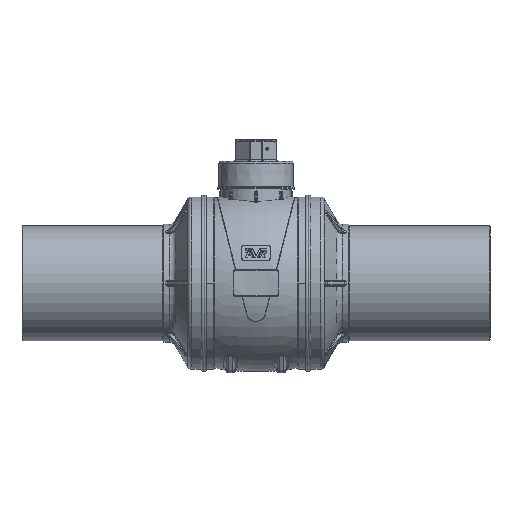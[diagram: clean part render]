
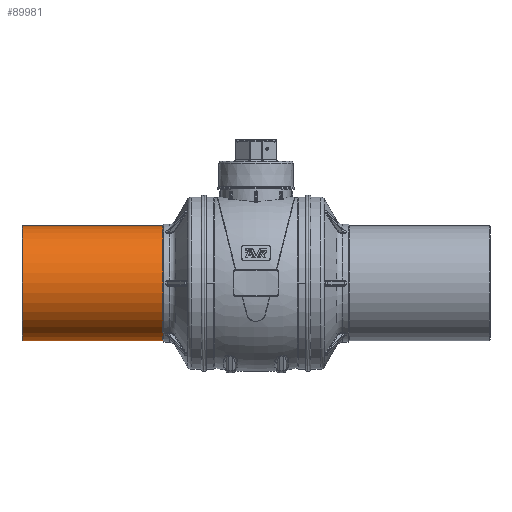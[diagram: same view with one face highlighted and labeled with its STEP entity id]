
A CAD part, top view. The second image highlights one B-rep face of the part: STEP entity #89981.
In plain terms, the highlighted cylindrical face has radius 90 mm (diameter 180 mm), a partial arc.
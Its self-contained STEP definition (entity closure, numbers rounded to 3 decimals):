
#8124 = DIRECTION ( 'NONE',  ( 1., 0., 0. ) ) ;
#8126 = CARTESIAN_POINT ( 'NONE',  ( -90.2, -90., 0. ) ) ;
#8130 = DIRECTION ( 'NONE',  ( 1., 0., 0. ) ) ;
#8133 = CARTESIAN_POINT ( 'NONE',  ( -90.2, 90., 0. ) ) ;
#13125 = FACE_OUTER_BOUND ( 'NONE', #32462, .T. ) ;
#13127 = CYLINDRICAL_SURFACE ( 'NONE', #54622, 90. ) ;
#20364 = CARTESIAN_POINT ( 'NONE',  ( -365.835, 0., 0. ) ) ;
#20366 = DIRECTION ( 'NONE',  ( 1., 0., 0. ) ) ;
#20368 = DIRECTION ( 'NONE',  ( 0., 1., 0. ) ) ;
#20373 = CARTESIAN_POINT ( 'NONE',  ( -146.335, 0., 0. ) ) ;
#20375 = DIRECTION ( 'NONE',  ( -1., 0., 0. ) ) ;
#20377 = DIRECTION ( 'NONE',  ( 0., 0., -1. ) ) ;
#27941 = AXIS2_PLACEMENT_3D ( 'NONE', #20364, #20366, #20368 ) ;
#27942 = AXIS2_PLACEMENT_3D ( 'NONE', #20373, #20375, #20377 ) ;
#28677 = CARTESIAN_POINT ( 'NONE',  ( -146.335, 90., 0. ) ) ;
#28941 = CARTESIAN_POINT ( 'NONE',  ( -365.835, 90., 0. ) ) ;
#29053 = CARTESIAN_POINT ( 'NONE',  ( -146.335, 0., 90. ) ) ;
#29241 = CARTESIAN_POINT ( 'NONE',  ( -365.835, -90., 0. ) ) ;
#29274 = CARTESIAN_POINT ( 'NONE',  ( -146.335, -90., 0. ) ) ;
#32462 = EDGE_LOOP ( 'NONE', ( #36614, #36615, #36616, #36617, #36618 ) ) ;
#33435 = VERTEX_POINT ( 'NONE', #28677 ) ;
#33679 = VERTEX_POINT ( 'NONE', #28941 ) ;
#33874 = VERTEX_POINT ( 'NONE', #29053 ) ;
#34173 = VERTEX_POINT ( 'NONE', #29241 ) ;
#34226 = VERTEX_POINT ( 'NONE', #29274 ) ;
#36614 = ORIENTED_EDGE ( 'NONE', *, *, #61483, .F. ) ;
#36615 = ORIENTED_EDGE ( 'NONE', *, *, #81808, .T. ) ;
#36616 = ORIENTED_EDGE ( 'NONE', *, *, #61481, .T. ) ;
#36617 = ORIENTED_EDGE ( 'NONE', *, *, #81810, .T. ) ;
#36618 = ORIENTED_EDGE ( 'NONE', *, *, #61616, .T. ) ;
#54622 = AXIS2_PLACEMENT_3D ( 'NONE', #91286, #91234, #91232 ) ;
#56947 = LINE ( 'NONE', #8126, #56951 ) ;
#56949 = LINE ( 'NONE', #8133, #56957 ) ;
#56951 = VECTOR ( 'NONE', #8124, 1000. ) ;
#56957 = VECTOR ( 'NONE', #8130, 1000. ) ;
#57014 = CIRCLE ( 'NONE', #63326, 90. ) ;
#61481 = EDGE_CURVE ( 'NONE', #34173, #34226, #56947, .T. ) ;
#61483 = EDGE_CURVE ( 'NONE', #33679, #33435, #56949, .T. ) ;
#61616 = EDGE_CURVE ( 'NONE', #33874, #33435, #57014, .T. ) ;
#63326 = AXIS2_PLACEMENT_3D ( 'NONE', #65362, #65364, #65366 ) ;
#65362 = CARTESIAN_POINT ( 'NONE',  ( -146.335, 0., 0. ) ) ;
#65364 = DIRECTION ( 'NONE',  ( -1., 0., 0. ) ) ;
#65366 = DIRECTION ( 'NONE',  ( 0., 0., -1. ) ) ;
#81808 = EDGE_CURVE ( 'NONE', #33679, #34173, #88253, .T. ) ;
#81810 = EDGE_CURVE ( 'NONE', #34226, #33874, #88254, .T. ) ;
#88253 = CIRCLE ( 'NONE', #27941, 90. ) ;
#88254 = CIRCLE ( 'NONE', #27942, 90. ) ;
#89981 = ADVANCED_FACE ( 'NONE', ( #13125 ), #13127, .T. ) ;
#91232 = DIRECTION ( 'NONE',  ( 0., -1., 0. ) ) ;
#91234 = DIRECTION ( 'NONE',  ( 1., 0., 0. ) ) ;
#91286 = CARTESIAN_POINT ( 'NONE',  ( -90.2, 0., 0. ) ) ;
